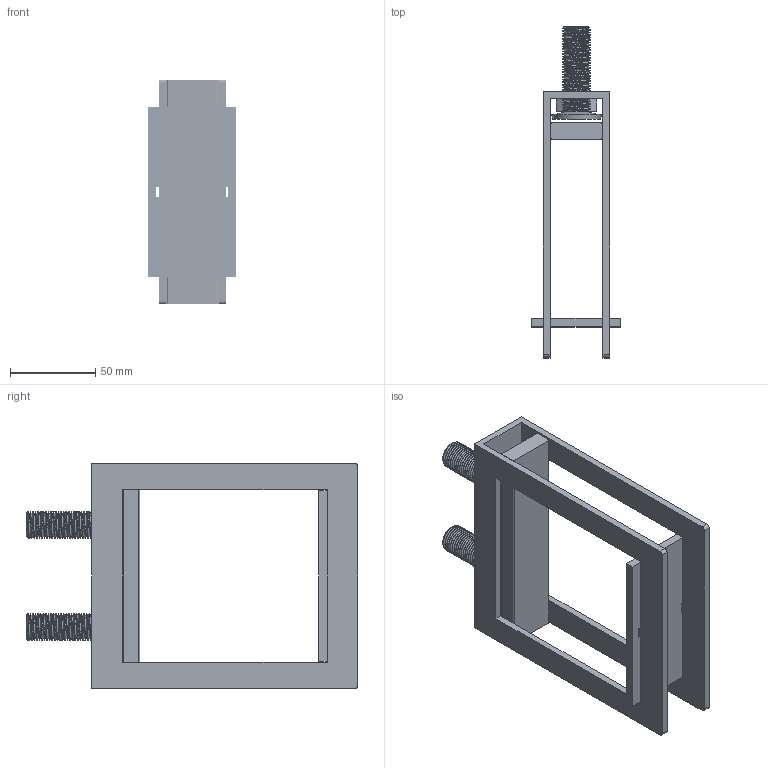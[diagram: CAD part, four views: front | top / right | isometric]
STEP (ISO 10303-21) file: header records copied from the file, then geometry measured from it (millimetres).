
FILE_DESCRIPTION (( 'STEP AP203' ), '1' );
FILE_NAME ('54908.STEP', '2021-08-16T00:55:59', ( '' ), ( '' ), 'SwSTEP 2.0', 'SolidWorks 2017', '' );
FILE_SCHEMA (( 'CONFIG_CONTROL_DESIGN' ));
Length unit declared in the file: millimetre
Products named in the file (2): 54908
Bounding box: 52 x 194.6 x 132 mm (x, y, z)
Volume: 170799.3 mm3; surface area: 87414.6 mm2
Topology: 7 solids, 7 shells, 358 faces, 1210 edges, 874 vertices
Faces by surface type: plane 186, bspline 134, cylinder 20, cone 14, torus 4
Full cylindrical faces by diameter (mm): 8.8 x2, 9.8 x2
Entity records: 54014 total; most frequent: CARTESIAN_POINT 44828, ORIENTED_EDGE 2356, EDGE_CURVE 1178, DIRECTION 1103, VERTEX_POINT 862, B_SPLINE_CURVE_WITH_KNOTS 574, LINE 557, VECTOR 557
